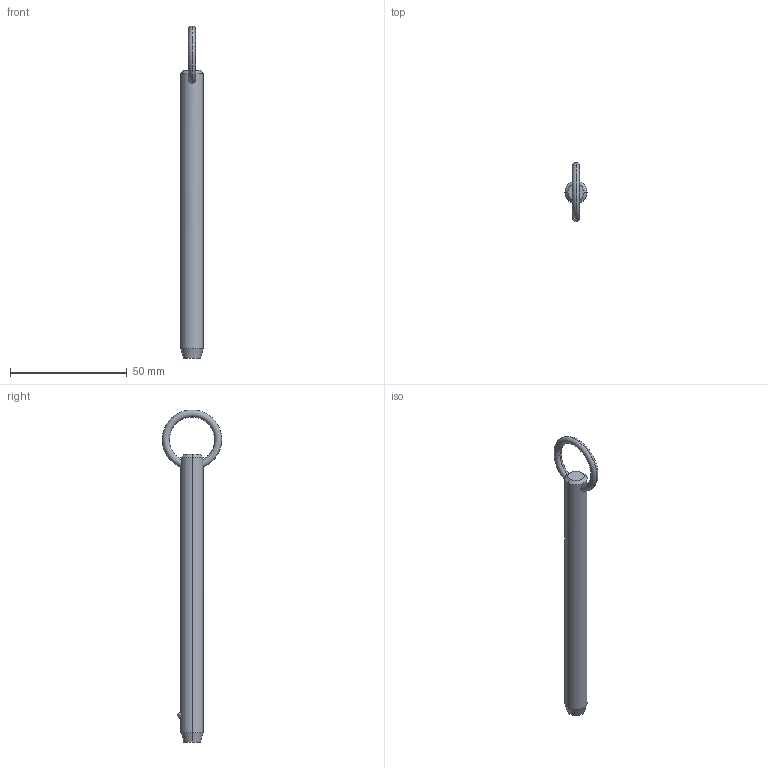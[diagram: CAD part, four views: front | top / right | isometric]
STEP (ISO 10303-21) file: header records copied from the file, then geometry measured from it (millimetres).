
FILE_DESCRIPTION (( 'STEP AP203' ), '1' );
FILE_NAME ('P1250.037-410.step', '2019-07-29T20:10:27', ( '' ), ( '' ), 'SwSTEP 2.0', 'SolidWorks 2017', '' );
FILE_SCHEMA (( 'CONFIG_CONTROL_DESIGN' ));
Length unit declared in the file: millimetre
Products named in the file (1): P1250.037-410
Bounding box: 9.52 x 25.39 x 142.2 mm (x, y, z)
Volume: 9117.1 mm3; surface area: 4325.4 mm2
Topology: 1 solids, 1 shells, 12 faces, 28 edges, 17 vertices
Faces by surface type: cone 4, torus 2, sphere 2, cylinder 2, plane 2
Entity records: 523 total; most frequent: CARTESIAN_POINT 190, DIRECTION 56, ORIENTED_EDGE 48, AXIS2_PLACEMENT_3D 25, EDGE_CURVE 24, EDGE_LOOP 15, VERTEX_POINT 15, CIRCLE 12
